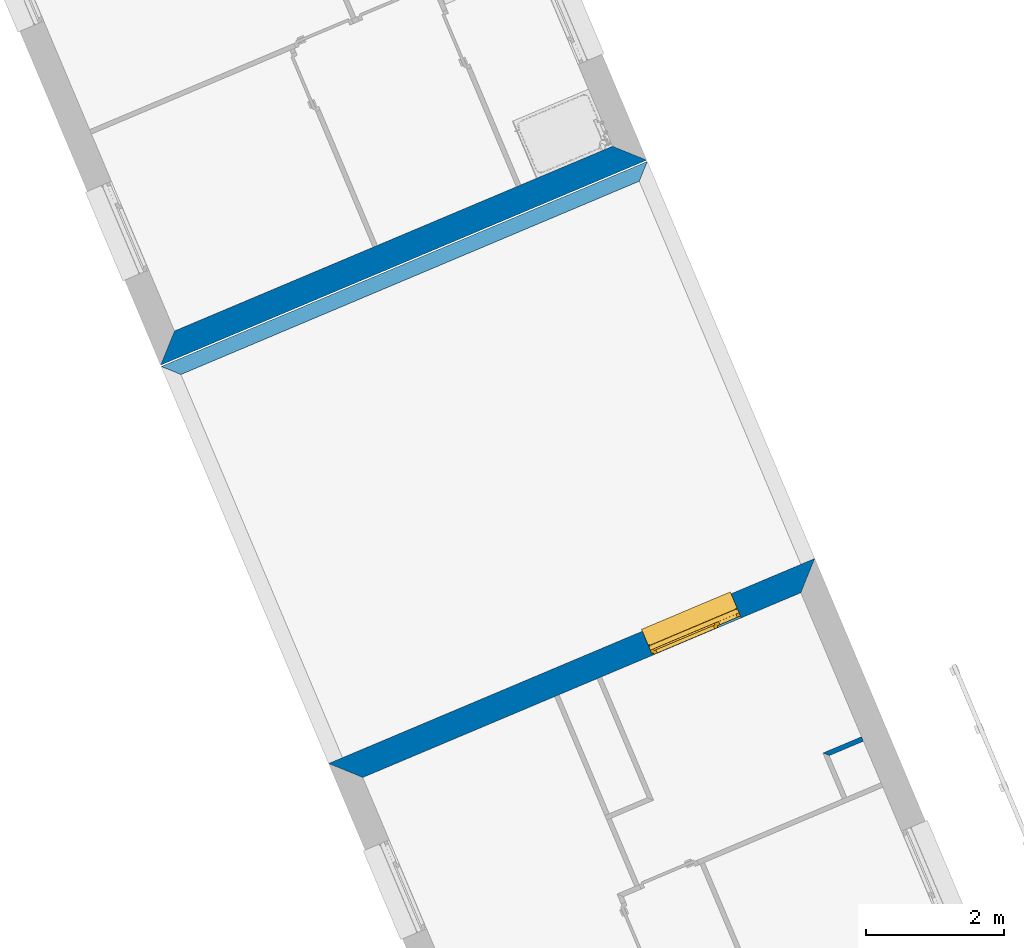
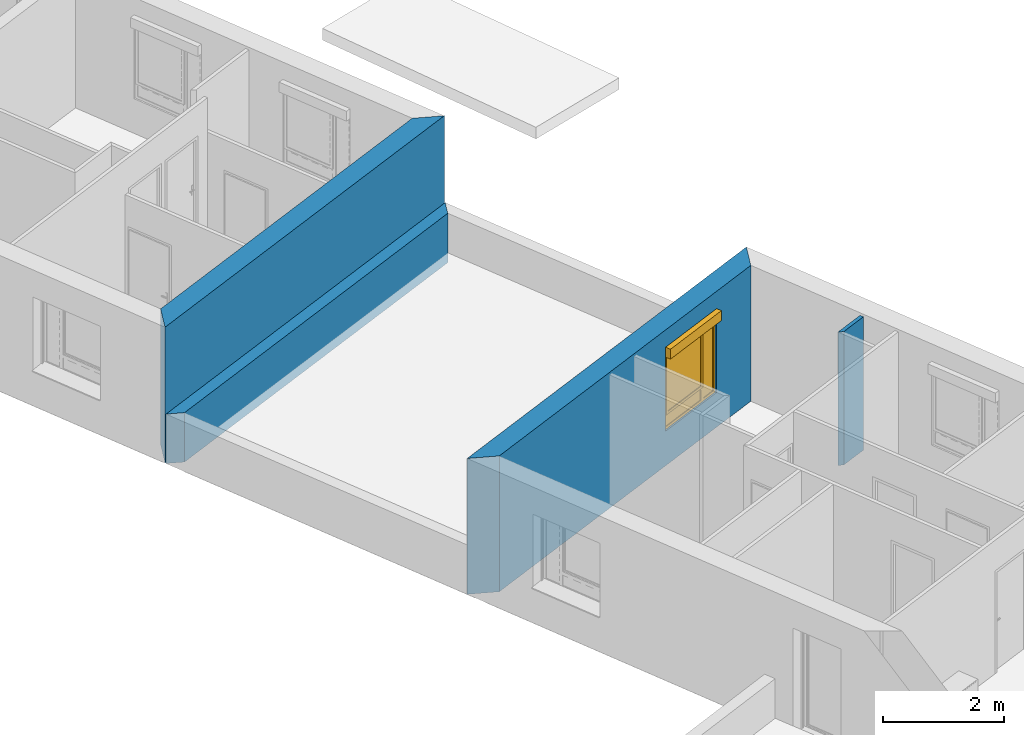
# One storey, part 48 of 121: 4 walls, 1 window, 1 opening.
"""IFC2X3 building model written with IfcOpenShell, lengths in metres."""

from ifc_helpers import new_model, entity, si_unit, converted_unit, derived_unit, money_unit, direction, frame, origin_with_axes, place, context, subcontext, project, spatial, polyline, outline, extrude, open_shell, faceted_brep, surface_model, source, transform, mapped, material, layer, layer_set, layer_usage, type_object, element, fill, save


model = new_model("IFC2X3")

# Units and contexts
model_context = context("Model", 3, precision=1e-05, world=origin_with_axes(), true_north=direction((0.0, 1.0)))
body_context = subcontext(model_context, "Body", "Model", "MODEL_VIEW")
ifc_project = project(units=[si_unit("LENGTHUNIT", "METRE"), si_unit("AREAUNIT", "SQUARE_METRE"), si_unit("VOLUMEUNIT", "CUBIC_METRE"), converted_unit("PLANEANGLEUNIT", "DEGREE", entity("IfcPlaneAngleMeasure", 0.0174532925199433), si_unit("PLANEANGLEUNIT", "RADIAN"), dimensions=[0, 0, 0, 0, 0, 0, 0]), money_unit("CHF"), converted_unit("TIMEUNIT", "Year", entity("IfcTimeMeasure", 31557600.0), si_unit("TIMEUNIT", "SECOND"), dimensions=[0, 0, 1, 0, 0, 0, 0]), si_unit("MASSUNIT", "GRAM", prefix="KILO"), si_unit("THERMODYNAMICTEMPERATUREUNIT", "DEGREE_CELSIUS"), si_unit("LUMINOUSINTENSITYUNIT", "LUMEN"), si_unit("ENERGYUNIT", "JOULE", prefix="MEGA"), derived_unit("THERMALCONDUCTANCEUNIT", [(si_unit("POWERUNIT", "WATT"), 1), (si_unit("LENGTHUNIT", "METRE"), -1), (si_unit("THERMODYNAMICTEMPERATUREUNIT", "KELVIN"), -1)]), derived_unit("SPECIFICHEATCAPACITYUNIT", [(si_unit("ENERGYUNIT", "JOULE"), 1), (si_unit("MASSUNIT", "GRAM", prefix="KILO"), -1), (si_unit("THERMODYNAMICTEMPERATUREUNIT", "KELVIN"), -1)]), derived_unit("MASSDENSITYUNIT", [(si_unit("MASSUNIT", "GRAM", prefix="KILO"), 1), (si_unit("VOLUMEUNIT", "CUBIC_METRE"), -1)])], contexts=[model_context])

# Site, building, storey
site_placement = place(None, origin_with_axes())
site = spatial("IfcSite", under=ifc_project, at=site_placement, Name="Site", CompositionType="ELEMENT")
building_placement = place(site_placement, origin_with_axes())
building = spatial("IfcBuilding", under=site, at=building_placement, Name="Bâtiment", CompositionType="ELEMENT")
storey_placement = place(building_placement, frame((0.0, 0.0, 2.75), z_axis=(0.0, 0.0, 1.0), x_axis=(1.0, 0.0, 0.0)))
storey = spatial("IfcBuildingStorey", under=building, at=storey_placement, Name="Etage 1", CompositionType="ELEMENT", Elevation=2.75)

# Wall
ifc_material_1 = material(Name="Hachure solide 268963992")
ifc_layer_1 = layer(ifc_material_1, 0.07, ventilated="UNKNOWN")
ifc_layer_set_1 = layer_set([ifc_layer_1], Name="Cloison 70 0826278243")
ifc_layer_usage_1 = layer_usage(ifc_layer_set_1, "AXIS2", "POSITIVE", 0.0)
wall_type_1 = type_object("IfcWallType", Name="Cloison 70 0826278243 70", PredefinedType="NOTDEFINED")
wall_1_placement = place(storey_placement, frame((9572.999368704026, -1050.993481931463, 57.7), z_axis=(0.0, 0.0, 1.0), x_axis=(0.9214205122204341, 0.3885669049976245, 0.0)))
element("IfcWallStandardCase", 1, at=wall_1_placement, inside=storey, type_object=wall_type_1, material=ifc_layer_usage_1, Name="Mur-150", context=body_context, shape_type="SweptSolid", body=[
    extrude(outline(polyline([(0.0, 0.0), (0.5393758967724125, 0.0), (0.5393758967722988, 0.06999999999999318), (-0.07000000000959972, 0.06999999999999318), (0.0, 0.0)])), origin_with_axes(), (0.0, 0.0, 1.0), 2.7),
])

# Wall, opening, window
ifc_material_2 = material(Name="Parpaing 312445824")
ifc_layer_2 = layer(ifc_material_2, 0.22, ventilated="UNKNOWN")
ifc_material_3 = material(Name="Isolant styromousse 301821074")
ifc_layer_3 = layer(ifc_material_3, 0.16, ventilated="UNKNOWN")
ifc_layer_set_2 = layer_set([ifc_layer_2, ifc_layer_3], Name="isol int 22+16 0836643197")
ifc_layer_usage_2 = layer_usage(ifc_layer_set_2, "AXIS2", "POSITIVE", 0.0)
wall_type_2 = type_object("IfcWallType", Name="isol int 22+16 0836643197 380", PredefinedType="NOTDEFINED")
wall_2_placement = place(storey_placement, frame((9572.789102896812, -1048.128803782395, 57.7), z_axis=(0.0, 0.0, 1.0), x_axis=(-0.9214205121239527, -0.3885669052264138, 0.0)))
wall_2 = element("IfcWallStandardCase", 2, at=wall_2_placement, inside=storey, type_object=wall_type_2, material=ifc_layer_usage_2, Name="Mur-113", context=body_context, shape_type="SweptSolid", body=[
    extrude(outline(polyline([(-2.359797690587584e-09, 0.0), (7.669914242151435, 0.0), (7.289914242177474, 0.3799999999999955), (0.3799999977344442, 0.3799999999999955), (-2.359797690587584e-09, 0.0)])), origin_with_axes(), (0.0, 0.0, 1.0), 2.75),
])
opening_placement = place(wall_2_placement, frame((2.01993794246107, 0.0, 0.7000000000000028), z_axis=(0.0, 0.0, 1.0), x_axis=(1.0, 0.0, 0.0)))
opening = element("IfcOpeningElement", 3, at=opening_placement, cuts=wall_2, Name="Fen-045", context=body_context, shape_type="Brep", body=[
    faceted_brep([(-0.6999999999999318, 0.3000000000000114, 1.5), (-0.7000000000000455, 0.4800000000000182, 1.5), (-0.6999999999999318, 3.127086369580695, 1.5), (-0.6999999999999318, 3.127086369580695, 0.0), (-0.6999999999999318, 0.3000000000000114, 0.0), (-0.6999999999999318, 0.2200000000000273, 1.5), (-0.6999999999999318, 0.2200000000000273, 1.700000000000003), (-0.7000000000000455, 0.4800000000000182, 1.700000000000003), (0.7000000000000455, 0.4800000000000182, 1.5), (0.7000000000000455, 3.127086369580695, 1.5), (0.7000000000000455, 3.127086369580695, 0.0), (0.7000000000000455, 0.3000000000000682, 0.0), (-0.7000000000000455, -2.747086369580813, 0.0), (-0.7000000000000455, -2.747086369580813, 1.5), (0.7000000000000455, 0.2200000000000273, 1.5), (0.7000000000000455, 0.2200000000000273, 1.700000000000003), (0.7000000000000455, 0.4800000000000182, 1.700000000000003), (0.7000000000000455, 0.3000000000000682, 1.5), (0.7000000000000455, -2.747086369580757, 0.0), (0.7000000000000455, -2.747086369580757, 1.5)], [[[0, 1, 2, 3, 4]], [[1, 0, 5, 6, 7]], [[1, 8, 9, 2]], [[9, 10, 3, 2]], [[11, 4, 3, 10]], [[5, 0, 4, 12, 13]], [[5, 14, 15, 6]], [[7, 6, 15, 16]], [[8, 1, 7, 16]], [[8, 17, 11, 10, 9]], [[4, 11, 18, 12]], [[13, 12, 18, 19]], [[14, 5, 13, 19]], [[17, 8, 16, 15, 14]], [[17, 14, 19, 18, 11]]]),
])
window_style = type_object("IfcWindowStyle", Name="Fenêtre variable 27", ConstructionType="NOTDEFINED", OperationType="TRIPLE_PANEL_LEFT", ParameterTakesPrecedence=False, Sizeable=False)
shared_shape = source(origin_with_axes(), body_context, "Body", "SurfaceModel", [
    surface_model("IfcShellBasedSurfaceModel", [(0.7, -0.05100000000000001, 0.05), (-0.7, -0.05100000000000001, 0.05000000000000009), (-0.7, -0.05100000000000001, 0.04000000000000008), (0.7, -0.05100000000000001, 0.04), (-0.7, -0.3799999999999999, 0.02900000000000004), (0.7, -0.3799999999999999, 0.02899999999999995), (-0.7, -0.3799999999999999, 0.00900000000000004), (0.7, -0.3799999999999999, 0.008999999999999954), (-0.7, -0.3699999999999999, 0.01900000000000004), (0.7, -0.3699999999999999, 0.01899999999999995)], [open_shell([[[0, 1, 2, 3]], [[3, 2, 4, 5]], [[5, 4, 6, 7]], [[7, 6, 8, 9]]])]),
    faceted_brep([(0.7, -0.13, 1.7), (0.7, 0.13, 1.7), (0.697, 0.13, 1.7), (0.697, -0.13, 1.7), (0.7, -0.13, 1.5), (0.7, 0.13, 1.5), (0.697, 0.13, 1.5), (0.697, -0.13, 1.5)], [[[0, 1, 2, 3]], [[0, 4, 5, 1]], [[1, 5, 6, 2]], [[3, 2, 6, 7]], [[4, 0, 3, 7]], [[5, 4, 7, 6]]]),
    faceted_brep([(-0.6970000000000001, -0.1299999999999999, 1.7), (-0.6970000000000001, 0.1300000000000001, 1.7), (-0.7000000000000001, 0.1300000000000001, 1.7), (-0.7000000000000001, -0.1299999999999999, 1.7), (-0.6970000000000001, -0.1299999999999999, 1.5), (-0.6970000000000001, 0.1300000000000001, 1.5), (-0.7000000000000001, 0.1300000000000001, 1.5), (-0.7000000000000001, -0.1299999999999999, 1.5)], [[[0, 1, 2, 3]], [[0, 4, 5, 1]], [[1, 5, 6, 2]], [[3, 2, 6, 7]], [[4, 0, 3, 7]], [[5, 4, 7, 6]]]),
    faceted_brep([(0.697, -0.13, 1.5), (0.697, -0.13, 1.7), (-0.697, -0.1299999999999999, 1.7), (-0.697, -0.1299999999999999, 1.5), (0.697, -0.127, 1.5), (0.697, -0.127, 1.697), (0.697, 0.127, 1.697), (0.697, 0.127, 1.503), (0.697, -0.108, 1.503), (0.697, -0.108, 1.5), (0.697, 0.13, 1.5), (0.697, 0.13, 1.7), (-0.697, 0.1300000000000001, 1.7), (-0.697, 0.1300000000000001, 1.5), (-0.697, -0.1079999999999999, 1.5), (-0.697, -0.1079999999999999, 1.503), (-0.697, 0.1270000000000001, 1.503), (-0.697, 0.1270000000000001, 1.697), (-0.697, -0.1269999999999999, 1.697), (-0.697, -0.1269999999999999, 1.5)], [[[0, 1, 2, 3]], [[0, 4, 5, 6, 7, 8, 9, 10, 11, 1]], [[1, 11, 12, 2]], [[3, 2, 12, 13, 14, 15, 16, 17, 18, 19]], [[4, 0, 3, 19]], [[5, 4, 19, 18]], [[6, 5, 18, 17]], [[7, 6, 17, 16]], [[8, 7, 16, 15]], [[9, 8, 15, 14]], [[10, 9, 14, 13]], [[11, 10, 13, 12]]]),
    faceted_brep([(0.694, -0.08075423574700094, 1.585760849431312), (0.694, -0.07705479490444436, 1.571954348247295), (0.694, -0.07101408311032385, 1.559), (0.694, -0.06281564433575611, 1.547291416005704), (0.694, -0.05270858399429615, 1.537184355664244), (0.694, -0.04099999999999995, 1.528985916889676), (0.694, -0.02804565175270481, 1.522945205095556), (0.694, -0.01423915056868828, 1.519245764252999), (0.694, 0.0, 1.518), (0.694, 0.01423915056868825, 1.519245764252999), (0.694, 0.02804565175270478, 1.522945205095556), (0.694, 0.04099999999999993, 1.528985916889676), (0.694, 0.05270858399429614, 1.537184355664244), (0.694, 0.06281564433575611, 1.547291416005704), (0.694, 0.07101408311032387, 1.559), (0.694, 0.07705479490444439, 1.571954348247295), (0.694, 0.08075423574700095, 1.585760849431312), (0.694, 0.0819999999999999, 1.6), (0.694, 0.08075423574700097, 1.614239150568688), (0.694, 0.0770547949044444, 1.628045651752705), (0.694, 0.07101408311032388, 1.641), (0.694, 0.06281564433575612, 1.652708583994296), (0.694, 0.05270858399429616, 1.662815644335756), (0.694, 0.04099999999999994, 1.671014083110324), (0.694, 0.02804565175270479, 1.677054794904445), (0.694, 0.01423915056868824, 1.680754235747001), (0.694, 0.0, 1.682), (0.694, -0.01423915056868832, 1.680754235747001), (0.694, -0.02804565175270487, 1.677054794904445), (0.694, -0.04100000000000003, 1.671014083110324), (0.694, -0.05270858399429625, 1.662815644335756), (0.694, -0.06281564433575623, 1.652708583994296), (0.694, -0.07101408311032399, 1.641), (0.694, -0.07705479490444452, 1.628045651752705), (0.694, -0.0807542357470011, 1.614239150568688), (0.694, -0.08200000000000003, 1.6), (-0.694, -0.08075423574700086, 1.585760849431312), (-0.694, -0.07705479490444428, 1.571954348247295), (-0.694, -0.07101408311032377, 1.559), (-0.694, -0.06281564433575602, 1.547291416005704), (-0.694, -0.05270858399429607, 1.537184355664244), (-0.694, -0.04099999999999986, 1.528985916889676), (-0.694, -0.02804565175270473, 1.522945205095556), (-0.694, -0.0142391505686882, 1.519245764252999), (-0.694, 0.0, 1.518), (-0.694, 0.01423915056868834, 1.519245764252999), (-0.694, 0.02804565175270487, 1.522945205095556), (-0.694, 0.04100000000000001, 1.528985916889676), (-0.694, 0.05270858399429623, 1.537184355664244), (-0.694, 0.06281564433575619, 1.547291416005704), (-0.694, 0.07101408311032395, 1.559), (-0.694, 0.07705479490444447, 1.571954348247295), (-0.694, 0.08075423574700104, 1.585760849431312), (-0.694, 0.08199999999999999, 1.6), (-0.694, 0.08075423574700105, 1.614239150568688), (-0.694, 0.07705479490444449, 1.628045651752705), (-0.694, 0.07101408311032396, 1.641), (-0.694, 0.0628156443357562, 1.652708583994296), (-0.694, 0.05270858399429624, 1.662815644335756), (-0.694, 0.04100000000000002, 1.671014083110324), (-0.694, 0.02804565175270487, 1.677054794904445), (-0.694, 0.01423915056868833, 1.680754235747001), (-0.694, 0.0, 1.682), (-0.694, -0.01423915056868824, 1.680754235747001), (-0.694, -0.02804565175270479, 1.677054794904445), (-0.694, -0.04099999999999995, 1.671014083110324), (-0.694, -0.05270858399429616, 1.662815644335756), (-0.694, -0.06281564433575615, 1.652708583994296), (-0.694, -0.07101408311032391, 1.641), (-0.694, -0.07705479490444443, 1.628045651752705), (-0.694, -0.08075423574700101, 1.614239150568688), (-0.694, -0.08199999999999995, 1.6)], [[[0, 1, 2, 3, 4, 5, 6, 7, 8, 9, 10, 11, 12, 13, 14, 15, 16, 17, 18, 19, 20, 21, 22, 23, 24, 25, 26, 27, 28, 29, 30, 31, 32, 33, 34, 35]], [[1, 0, 36, 37]], [[2, 1, 37, 38]], [[3, 2, 38, 39]], [[4, 3, 39, 40]], [[5, 4, 40, 41]], [[6, 5, 41, 42]], [[7, 6, 42, 43]], [[8, 7, 43, 44]], [[9, 8, 44, 45]], [[10, 9, 45, 46]], [[11, 10, 46, 47]], [[12, 11, 47, 48]], [[13, 12, 48, 49]], [[14, 13, 49, 50]], [[15, 14, 50, 51]], [[16, 15, 51, 52]], [[17, 16, 52, 53]], [[18, 17, 53, 54]], [[19, 18, 54, 55]], [[20, 19, 55, 56]], [[21, 20, 56, 57]], [[22, 21, 57, 58]], [[23, 22, 58, 59]], [[24, 23, 59, 60]], [[25, 24, 60, 61]], [[26, 25, 61, 62]], [[27, 26, 62, 63]], [[28, 27, 63, 64]], [[29, 28, 64, 65]], [[30, 29, 65, 66]], [[31, 30, 66, 67]], [[32, 31, 67, 68]], [[33, 32, 68, 69]], [[34, 33, 69, 70]], [[35, 34, 70, 71]], [[0, 35, 71, 36]], [[36, 71, 70, 69, 68, 67, 66, 65, 64, 63, 62, 61, 60, 59, 58, 57, 56, 55, 54, 53, 52, 51, 50, 49, 48, 47, 46, 45, 44, 43, 42, 41, 40, 39, 38, 37]]]),
    faceted_brep([(-0.7, -0.105, 0.03), (-0.7, -0.13, 0.03), (-0.7, -0.1299999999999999, 1.5), (-0.7, -0.1049999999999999, 1.5), (-0.6749999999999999, -0.105, 0.03), (-0.6749999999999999, -0.108, 0.03), (-0.697, -0.108, 0.03), (-0.697, -0.127, 0.03), (-0.6749999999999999, -0.127, 0.03), (-0.6749999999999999, -0.13, 0.03), (-0.6749999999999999, -0.1299999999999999, 1.5), (-0.6749999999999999, -0.1269999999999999, 1.5), (-0.697, -0.1269999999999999, 1.5), (-0.697, -0.1079999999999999, 1.5), (-0.6749999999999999, -0.1079999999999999, 1.5), (-0.6749999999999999, -0.1049999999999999, 1.5)], [[[0, 1, 2, 3]], [[0, 4, 5, 6, 7, 8, 9, 1]], [[1, 9, 10, 2]], [[3, 2, 10, 11, 12, 13, 14, 15]], [[4, 0, 3, 15]], [[5, 4, 15, 14]], [[6, 5, 14, 13]], [[7, 6, 13, 12]], [[8, 7, 12, 11]], [[9, 8, 11, 10]]]),
    faceted_brep([(0.7, -0.105, 0.03), (0.7, -0.1049999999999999, 1.5), (0.7, -0.1299999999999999, 1.5), (0.7, -0.13, 0.03), (0.6749999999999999, -0.105, 0.03), (0.6749999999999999, -0.1049999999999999, 1.5), (0.6749999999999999, -0.1079999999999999, 1.5), (0.697, -0.1079999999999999, 1.5), (0.697, -0.1269999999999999, 1.5), (0.6749999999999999, -0.1269999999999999, 1.5), (0.6749999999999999, -0.1299999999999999, 1.5), (0.6749999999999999, -0.13, 0.03), (0.6749999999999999, -0.127, 0.03), (0.697, -0.127, 0.03), (0.697, -0.108, 0.03), (0.6749999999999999, -0.108, 0.03)], [[[0, 1, 2, 3]], [[4, 5, 1, 0]], [[1, 5, 6, 7, 8, 9, 10, 2]], [[3, 2, 10, 11]], [[0, 3, 11, 12, 13, 14, 15, 4]], [[15, 6, 5, 4]], [[14, 7, 6, 15]], [[13, 8, 7, 14]], [[12, 9, 8, 13]], [[11, 10, 9, 12]]]),
    surface_model("IfcShellBasedSurfaceModel", [(0.697, -0.115, 1.6), (-0.697, -0.1149999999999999, 1.6), (-0.697, -0.12, 1.6), (0.697, -0.12, 1.6), (0.697, -0.115, 1.6), (0.697, -0.12, 1.6), (-0.697, -0.1199999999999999, 1.6), (-0.697, -0.1149999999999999, 1.6)], [open_shell([[[0, 1, 2, 3]], [[4, 5, 6, 7]]])]),
    faceted_brep([(0.697, -0.115, 1.6), (0.697, -0.1166666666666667, 1.583333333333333), (-0.697, -0.1166666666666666, 1.583333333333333), (-0.697, -0.1149999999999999, 1.6), (0.697, -0.12, 1.6), (0.697, -0.1216666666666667, 1.583333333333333), (0.697, -0.1216666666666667, 1.566666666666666), (0.697, -0.12, 1.55), (0.697, -0.115, 1.55), (0.697, -0.1166666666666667, 1.566666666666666), (-0.697, -0.1166666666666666, 1.566666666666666), (-0.697, -0.1149999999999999, 1.55), (-0.697, -0.1199999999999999, 1.55), (-0.697, -0.1216666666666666, 1.566666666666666), (-0.697, -0.1216666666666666, 1.583333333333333), (-0.697, -0.1199999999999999, 1.6)], [[[0, 1, 2, 3]], [[0, 4, 5, 6, 7, 8, 9, 1]], [[1, 9, 10, 2]], [[3, 2, 10, 11, 12, 13, 14, 15]], [[4, 0, 3, 15]], [[5, 4, 15, 14]], [[6, 5, 14, 13]], [[7, 6, 13, 12]], [[8, 7, 12, 11]], [[9, 8, 11, 10]]]),
    faceted_brep([(0.697, -0.115, 1.55), (0.697, -0.1166666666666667, 1.533333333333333), (-0.697, -0.1166666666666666, 1.533333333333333), (-0.697, -0.1149999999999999, 1.55), (0.697, -0.12, 1.55), (0.697, -0.1216666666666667, 1.533333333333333), (0.697, -0.1216666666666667, 1.516666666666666), (0.697, -0.12, 1.5), (0.697, -0.115, 1.5), (0.697, -0.1166666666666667, 1.516666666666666), (-0.697, -0.1166666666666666, 1.516666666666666), (-0.697, -0.1149999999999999, 1.5), (-0.697, -0.1199999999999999, 1.5), (-0.697, -0.1216666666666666, 1.516666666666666), (-0.697, -0.1216666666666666, 1.533333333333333), (-0.697, -0.1199999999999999, 1.55)], [[[0, 1, 2, 3]], [[0, 4, 5, 6, 7, 8, 9, 1]], [[1, 9, 10, 2]], [[3, 2, 10, 11, 12, 13, 14, 15]], [[4, 0, 3, 15]], [[5, 4, 15, 14]], [[6, 5, 14, 13]], [[7, 6, 13, 12]], [[8, 7, 12, 11]], [[9, 8, 11, 10]]]),
    faceted_brep([(0.6749999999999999, 0.0, 1.45), (0.6749999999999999, -0.02500000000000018, 1.45), (0.6499999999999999, -0.02500000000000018, 1.45), (0.6499999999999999, -0.05000000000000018, 1.45), (0.7, -0.05000000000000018, 1.45), (0.7, 0.0, 1.45), (0.6749999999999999, 0.0, 0.3099999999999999), (0.6749999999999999, -0.02500000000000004, 0.3099999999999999), (0.6499999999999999, -0.02500000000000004, 0.335), (0.6499999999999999, -0.02500000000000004, 0.3099999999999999), (0.6499999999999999, -0.05000000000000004, 0.335), (0.6499999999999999, -0.05000000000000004, 0.265), (0.6499999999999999, -0.05000000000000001, 0.05000000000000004), (0.7, -0.05000000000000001, 0.05000000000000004), (0.7, 0.0, 0.05000000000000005), (0.6499999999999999, 0.0, 0.05000000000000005), (0.6499999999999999, 0.0, 0.265), (0.6499999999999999, 0.0, 0.3099999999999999)], [[[0, 1, 2, 3, 4, 5]], [[1, 0, 6, 7]], [[8, 2, 1, 7, 9]], [[2, 8, 10, 3]], [[10, 11, 12, 13, 4, 3]], [[5, 4, 13, 14]], [[6, 0, 5, 14, 15, 16, 17]], [[6, 17, 9, 7]], [[9, 17, 16, 11, 10, 8]], [[15, 12, 11, 16]], [[14, 13, 12, 15]]]),
    faceted_brep([(-0.3068894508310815, -0.02500000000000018, 1.45), (-0.3318894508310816, -0.02500000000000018, 1.45), (-0.3318894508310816, 0.0, 1.45), (-0.3768894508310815, 0.0, 1.45), (-0.3768894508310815, -0.05000000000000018, 1.45), (-0.3068894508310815, -0.05000000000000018, 1.45), (-0.3068894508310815, -0.02500000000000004, 0.335), (-0.3068894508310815, -0.02500000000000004, 0.3099999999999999), (-0.3318894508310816, -0.02500000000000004, 0.3099999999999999), (-0.3318894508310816, 0.0, 0.3099999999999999), (-0.3068894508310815, 0.0, 0.3099999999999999), (-0.3068894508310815, 0.0, 0.265), (-0.3068894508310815, 0.0, 0.05000000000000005), (-0.3768894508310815, 0.0, 0.05000000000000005), (-0.3768894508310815, -0.05000000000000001, 0.05000000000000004), (-0.3068894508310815, -0.05000000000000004, 0.265), (-0.3068894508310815, -0.05000000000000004, 0.335), (-0.3068894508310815, -0.05000000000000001, 0.05000000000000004)], [[[0, 1, 2, 3, 4, 5]], [[1, 0, 6, 7, 8]], [[9, 2, 1, 8]], [[9, 10, 11, 12, 13, 3, 2]], [[13, 14, 4, 3]], [[15, 16, 5, 4, 14, 17]], [[6, 0, 5, 16]], [[7, 6, 16, 15, 11, 10]], [[10, 9, 8, 7]], [[11, 15, 17, 12]], [[12, 17, 14, 13]]]),
    faceted_brep([(0.6499999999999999, -0.02500000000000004, 0.335), (-0.3068894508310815, -0.02500000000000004, 0.335), (-0.3068894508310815, -0.05000000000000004, 0.335), (0.6499999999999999, -0.05000000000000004, 0.335), (-0.3068894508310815, -0.02500000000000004, 0.3099999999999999), (0.6499999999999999, -0.02500000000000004, 0.3099999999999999), (-0.3068894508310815, 0.0, 0.3099999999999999), (-0.3068894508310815, 0.0, 0.265), (-0.3068894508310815, -0.05000000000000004, 0.265), (0.6499999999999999, -0.05000000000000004, 0.265), (0.6499999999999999, 0.0, 0.265), (0.6499999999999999, 0.0, 0.3099999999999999)], [[[0, 1, 2, 3]], [[4, 1, 0, 5]], [[4, 6, 7, 8, 2, 1]], [[2, 8, 9, 3]], [[5, 0, 3, 9, 10, 11]], [[11, 6, 4, 5]], [[6, 11, 10, 7]], [[10, 9, 8, 7]]]),
    faceted_brep([(0.6749999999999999, 0.0, 1.45), (0.6749999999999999, 0.0, 1.475), (-0.3318894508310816, 0.0, 1.475), (-0.3318894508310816, 0.0, 1.45), (-0.3768894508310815, 0.0, 1.45), (-0.6499999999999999, 0.0, 1.45), (-0.7, 0.0, 1.45), (-0.7, 0.0, 1.5), (0.7, 0.0, 1.5), (0.7, 0.0, 1.45), (0.6749999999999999, -0.02500000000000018, 1.45), (0.6749999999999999, -0.02500000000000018, 1.475), (-0.3318894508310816, -0.02500000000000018, 1.475), (-0.3318894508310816, -0.02500000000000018, 1.45), (-0.3068894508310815, -0.02500000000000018, 1.45), (-0.3068894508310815, -0.05000000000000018, 1.45), (-0.3768894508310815, -0.05000000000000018, 1.45), (-0.6499999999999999, -0.05000000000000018, 1.45), (-0.7, -0.05000000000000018, 1.45), (-0.7, -0.05000000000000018, 1.5), (0.7, -0.05000000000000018, 1.5), (0.7, -0.05000000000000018, 1.45), (0.6499999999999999, -0.05000000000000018, 1.45), (0.6499999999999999, -0.02500000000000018, 1.45)], [[[0, 1, 2, 3, 4, 5, 6, 7, 8, 9]], [[1, 0, 10, 11]], [[2, 1, 11, 12]], [[3, 2, 12, 13]], [[13, 14, 15, 16, 4, 3]], [[4, 16, 17, 5]], [[5, 17, 18, 6]], [[6, 18, 19, 7]], [[7, 19, 20, 8]], [[8, 20, 21, 9]], [[10, 0, 9, 21, 22, 23]], [[14, 13, 12, 11, 10, 23]], [[14, 23, 22, 15]], [[16, 15, 22, 21, 20, 19, 18, 17]]]),
    faceted_brep([(-0.6499999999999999, -0.05000000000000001, 0.05), (-0.7, -0.05000000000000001, 0.05), (-0.7, 0.0, 0.05000000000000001), (-0.6499999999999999, 0.0, 0.05000000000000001), (-0.6499999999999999, -0.05000000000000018, 1.45), (-0.7, -0.05000000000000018, 1.45), (-0.7, 0.0, 1.45), (-0.6499999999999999, 0.0, 1.45)], [[[0, 1, 2, 3]], [[0, 4, 5, 1]], [[1, 5, 6, 2]], [[3, 2, 6, 7]], [[4, 0, 3, 7]], [[5, 4, 7, 6]]]),
    faceted_brep([(0.6499999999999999, -0.05000000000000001, 0.05), (0.7, -0.05000000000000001, 0.05), (0.7, 0.0, 0.05000000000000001), (0.6499999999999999, 0.0, 0.05000000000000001), (-0.3068894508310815, -0.05000000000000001, 0.05), (-0.3768894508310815, -0.05000000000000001, 0.05), (-0.6499999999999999, -0.05000000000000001, 0.05), (-0.7, -0.05000000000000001, 0.05), (-0.7, -0.05, 0.0), (0.7, -0.05, 0.0), (0.7, 0.0, 0.0), (-0.7, 0.0, 0.0), (-0.7, 0.0, 0.05000000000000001), (-0.6499999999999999, 0.0, 0.05000000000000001), (-0.3768894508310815, 0.0, 0.05000000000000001), (-0.3068894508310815, 0.0, 0.05000000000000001)], [[[0, 1, 2, 3]], [[0, 4, 5, 6, 7, 8, 9, 1]], [[1, 9, 10, 2]], [[3, 2, 10, 11, 12, 13, 14, 15]], [[4, 0, 3, 15]], [[5, 4, 15, 14]], [[6, 5, 14, 13]], [[7, 6, 13, 12]], [[8, 7, 12, 11]], [[9, 8, 11, 10]]]),
    faceted_brep([(0.625, -0.02500000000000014, 1.425), (0.6749999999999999, -0.02500000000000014, 1.425), (0.6749999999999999, 0.02499999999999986, 1.425), (0.625, 0.02499999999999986, 1.425), (0.625, -0.02500000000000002, 0.3599999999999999), (0.6749999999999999, -0.02500000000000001, 0.3599999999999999), (0.6749999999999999, 0.02499999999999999, 0.3599999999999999), (0.625, 0.02499999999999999, 0.3599999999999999)], [[[0, 1, 2, 3]], [[0, 4, 5, 1]], [[1, 5, 6, 2]], [[3, 2, 6, 7]], [[4, 0, 3, 7]], [[5, 4, 7, 6]]]),
    faceted_brep([(-0.2818894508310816, -0.02500000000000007, 0.3599999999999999), (-0.3318894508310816, -0.02500000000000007, 0.3599999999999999), (-0.3318894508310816, 0.02499999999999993, 0.3599999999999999), (-0.2818894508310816, 0.02499999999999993, 0.3599999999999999), (-0.2818894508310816, -0.0250000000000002, 1.425), (-0.3318894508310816, -0.0250000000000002, 1.425), (-0.3318894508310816, 0.0249999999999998, 1.425), (-0.2818894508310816, 0.0249999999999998, 1.425)], [[[0, 1, 2, 3]], [[0, 4, 5, 1]], [[1, 5, 6, 2]], [[3, 2, 6, 7]], [[4, 0, 3, 7]], [[5, 4, 7, 6]]]),
    faceted_brep([(-0.3318894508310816, -0.02500000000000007, 0.3099999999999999), (-0.3318894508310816, -0.02500000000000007, 0.3599999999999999), (-0.3318894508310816, 0.02499999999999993, 0.3599999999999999), (-0.3318894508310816, 0.02499999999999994, 0.3099999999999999), (0.6749999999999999, -0.025, 0.3099999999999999), (0.6749999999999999, -0.02500000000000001, 0.3599999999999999), (0.625, -0.02500000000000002, 0.3599999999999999), (-0.2818894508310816, -0.02500000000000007, 0.3599999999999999), (-0.2818894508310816, 0.02499999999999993, 0.3599999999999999), (0.625, 0.02499999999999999, 0.3599999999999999), (0.6749999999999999, 0.02499999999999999, 0.3599999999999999), (0.6749999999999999, 0.02499999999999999, 0.3099999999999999)], [[[0, 1, 2, 3]], [[0, 4, 5, 6, 7, 1]], [[1, 7, 8, 2]], [[3, 2, 8, 9, 10, 11]], [[4, 0, 3, 11]], [[5, 4, 11, 10]], [[6, 5, 10, 9]], [[7, 6, 9, 8]]]),
    faceted_brep([(0.6749999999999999, -0.02500000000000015, 1.475), (0.6749999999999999, -0.02500000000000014, 1.425), (0.6749999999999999, 0.02499999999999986, 1.425), (0.6749999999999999, 0.02499999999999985, 1.475), (-0.3318894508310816, -0.02500000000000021, 1.475), (-0.3318894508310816, -0.0250000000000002, 1.425), (-0.2818894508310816, -0.0250000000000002, 1.425), (0.625, -0.02500000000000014, 1.425), (0.625, 0.02499999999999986, 1.425), (-0.2818894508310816, 0.0249999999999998, 1.425), (-0.3318894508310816, 0.0249999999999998, 1.425), (-0.3318894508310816, 0.02499999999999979, 1.475)], [[[0, 1, 2, 3]], [[0, 4, 5, 6, 7, 1]], [[1, 7, 8, 2]], [[3, 2, 8, 9, 10, 11]], [[4, 0, 3, 11]], [[5, 4, 11, 10]], [[6, 5, 10, 9]], [[7, 6, 9, 8]]]),
    surface_model("IfcShellBasedSurfaceModel", [(0.625, -0.01000000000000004, 0.3599999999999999), (0.625, -0.01000000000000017, 1.425), (-0.2818894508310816, -0.01000000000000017, 1.425), (-0.2818894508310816, -0.01000000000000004, 0.3599999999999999)], [open_shell([[[0, 1, 2, 3]]])]),
    surface_model("IfcShellBasedSurfaceModel", [(0.625, 0.009999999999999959, 0.3599999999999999), (-0.2818894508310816, 0.009999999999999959, 0.3599999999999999), (-0.2818894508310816, 0.00999999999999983, 1.425), (0.625, 0.00999999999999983, 1.425)], [open_shell([[[0, 1, 2, 3]]])]),
    surface_model("IfcShellBasedSurfaceModel", [(-0.3768894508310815, -0.035, 0.05), (-0.3768894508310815, -0.03500000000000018, 1.45), (-0.65, -0.03500000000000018, 1.45), (-0.65, -0.035, 0.05)], [open_shell([[[0, 1, 2, 3]]])]),
    surface_model("IfcShellBasedSurfaceModel", [(-0.3768894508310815, -0.015, 0.05), (-0.65, -0.015, 0.05), (-0.65, -0.01500000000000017, 1.45), (-0.3768894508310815, -0.01500000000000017, 1.45)], [open_shell([[[0, 1, 2, 3]]])]),
    surface_model("IfcShellBasedSurfaceModel", [(0.6499999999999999, -0.035, 0.05), (0.6499999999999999, -0.03500000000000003, 0.265), (-0.3068894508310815, -0.03500000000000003, 0.265), (-0.3068894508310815, -0.035, 0.05)], [open_shell([[[0, 1, 2, 3]]])]),
    surface_model("IfcShellBasedSurfaceModel", [(0.6499999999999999, -0.015, 0.05), (-0.3068894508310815, -0.015, 0.05), (-0.3068894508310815, -0.01500000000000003, 0.265), (0.6499999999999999, -0.01500000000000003, 0.265)], [open_shell([[[0, 1, 2, 3]]])]),
])
window_placement = place(opening_placement, frame((-0.7000000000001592, 0.0, 0.0), z_axis=(0.0, 0.0, 1.0), x_axis=(1.0, 0.0, 0.0)))
window = element("IfcWindow", 4, at=window_placement, inside=storey, type_object=window_style, Name="Fen-045", OverallHeight=1.5, OverallWidth=1.4, context=body_context, shape_type="MappedRepresentation", body=[
    mapped(shared_shape, transform((0.7000000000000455, 0.3499999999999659, 0.0))),
])
fill(opening, window)

# Walls
ifc_layer_usage_3 = layer_usage(ifc_layer_set_2, "AXIS2", "NEGATIVE", 0.0)
wall_3_placement = place(storey_placement, frame((9570.347446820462, -1042.33883051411, 57.7), z_axis=(0.0, 0.0, 1.0), x_axis=(-0.921420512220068, -0.3885669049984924, 0.0)))
element("IfcWallStandardCase", 5, at=wall_3_placement, inside=storey, type_object=wall_type_2, material=ifc_layer_usage_3, Name="Mur-113", context=body_context, shape_type="SweptSolid", body=[
    extrude(outline(polyline([(0.3800000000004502, -0.3800000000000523), (7.289914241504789, -0.3799999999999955), (7.669914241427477, 0.0), (0.0, 0.0), (0.3800000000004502, -0.3800000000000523)])), origin_with_axes(), (0.0, 0.0, 1.0), 2.75),
])
ifc_material_4 = material(Name="Empty Fill 3000033799")
ifc_layer_4 = layer(ifc_material_4, 0.22, ventilated="UNKNOWN")
ifc_layer_set_3 = layer_set([ifc_layer_4], Name="acrotère 22")
ifc_layer_usage_4 = layer_usage(ifc_layer_set_3, "AXIS2", "POSITIVE", 0.0)
wall_type_3 = type_object("IfcWallType", Name="acrotère 22 220", PredefinedType="NOTDEFINED")
wall_4_placement = place(storey_placement, frame((9570.355218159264, -1042.357258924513, 57.7), z_axis=(0.0, 0.0, 1.0), x_axis=(-0.9214205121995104, -0.3885669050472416, 0.0)))
element("IfcWallStandardCase", 6, at=wall_4_placement, inside=storey, type_object=wall_type_3, material=ifc_layer_usage_4, Name="Mur-108", context=body_context, shape_type="SweptSolid", body=[
    extrude(outline(polyline([(0.0, 0.0), (7.669914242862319, 0.0), (7.449914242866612, 0.2199999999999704), (0.2200000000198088, 0.2199999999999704), (0.0, 0.0)])), origin_with_axes(), (0.0, 0.0, 1.0), 1.0),
])

save(model, "model.ifc")
